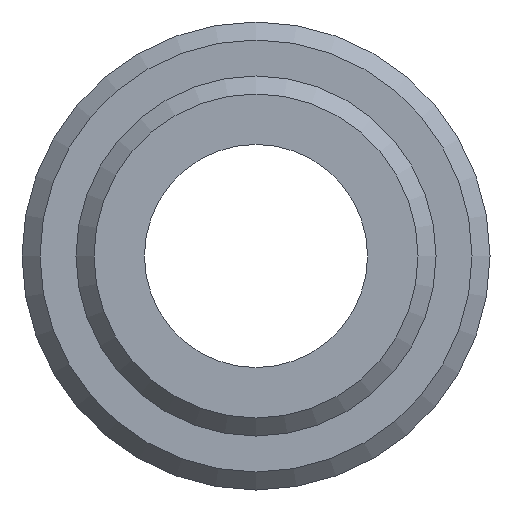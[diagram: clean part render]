
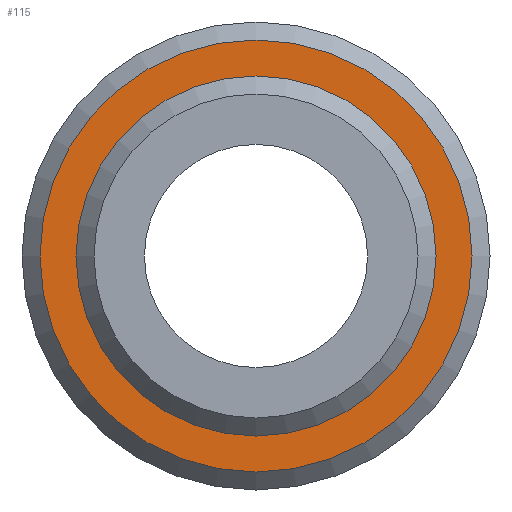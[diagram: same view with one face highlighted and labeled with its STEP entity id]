
A CAD part, front view. The second image highlights one B-rep face of the part: STEP entity #115.
In plain terms, the highlighted planar face has unit normal (0, -1, 0).
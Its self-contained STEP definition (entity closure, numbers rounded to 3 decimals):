
#73=CARTESIAN_POINT('',(-6.0,24.,0.));
#74=VERTEX_POINT('',#73);
#75=CARTESIAN_POINT('',(0.0,24.,0.0));
#76=DIRECTION('',(0.0,1.0,0.0));
#77=DIRECTION('',(1.0,0.0,0.0));
#78=AXIS2_PLACEMENT_3D('',#75,#76,#77);
#79=CIRCLE('',#78,6.0);
#80=EDGE_CURVE('',#74,#74,#79,.T.);
#96=CARTESIAN_POINT('',(-5.75,24.,0.0));
#97=DIRECTION('',(0.0,-1.0,0.0));
#98=DIRECTION('',(0.0,0.0,-1.0));
#99=AXIS2_PLACEMENT_3D('',#96,#97,#98);
#100=PLANE('',#99);
#101=ORIENTED_EDGE('',*,*,#80,.F.);
#102=EDGE_LOOP('',(#101));
#103=FACE_OUTER_BOUND('',#102,.T.);
#104=CARTESIAN_POINT('',(-5.,24.,0.0));
#105=VERTEX_POINT('',#104);
#106=CARTESIAN_POINT('',(0.0,24.,0.0));
#107=DIRECTION('',(0.0,1.0,0.0));
#108=DIRECTION('',(-1.0,0.0,0.0));
#109=AXIS2_PLACEMENT_3D('',#106,#107,#108);
#110=CIRCLE('',#109,5.);
#111=EDGE_CURVE('',#105,#105,#110,.T.);
#112=ORIENTED_EDGE('',*,*,#111,.T.);
#113=EDGE_LOOP('',(#112));
#114=FACE_BOUND('',#113,.T.);
#115=ADVANCED_FACE('',(#103,#114),#100,.T.);
